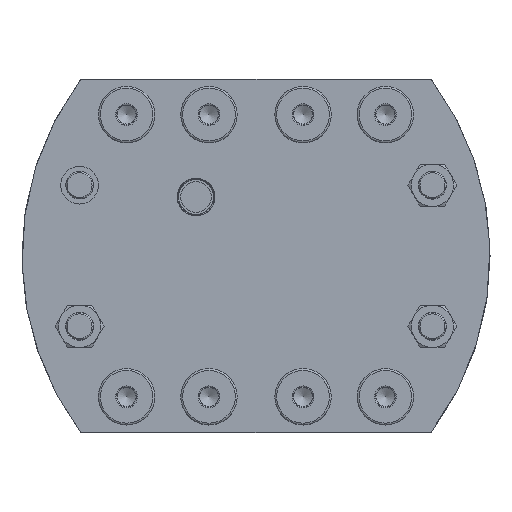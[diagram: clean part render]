
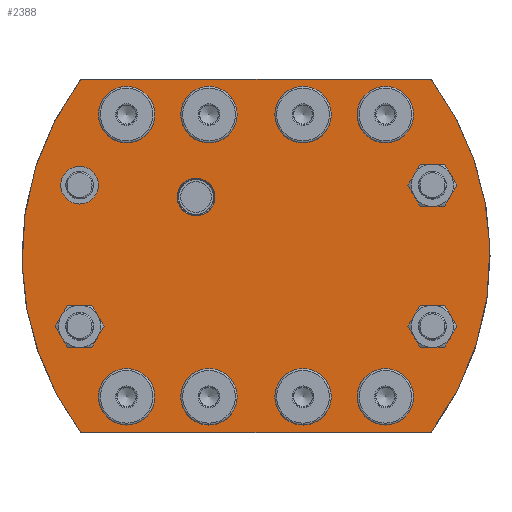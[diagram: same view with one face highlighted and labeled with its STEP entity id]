
A CAD part, top view. The second image highlights one B-rep face of the part: STEP entity #2388.
In plain terms, the highlighted planar face has unit normal (0, 0, 1).
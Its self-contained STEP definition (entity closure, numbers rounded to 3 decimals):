
#1037=LINE('',#16882,#1321);
#1039=LINE('',#16890,#1323);
#1321=VECTOR('',#12905,1.);
#1323=VECTOR('',#12915,1.);
#1586=PLANE('',#10272);
#2388=ADVANCED_FACE('',(#3315,#3316,#3317,#3318,#3319,#3320,#3321,#3322,
#3323,#3324,#3325,#3326,#3327,#3328),#1586,.T.);
#3315=FACE_BOUND('',#4408,.T.);
#3316=FACE_BOUND('',#4409,.T.);
#3317=FACE_BOUND('',#4410,.T.);
#3318=FACE_BOUND('',#4411,.T.);
#3319=FACE_BOUND('',#4412,.T.);
#3320=FACE_BOUND('',#4413,.T.);
#3321=FACE_BOUND('',#4414,.T.);
#3322=FACE_BOUND('',#4415,.T.);
#3323=FACE_BOUND('',#4416,.T.);
#3324=FACE_BOUND('',#4417,.T.);
#3325=FACE_BOUND('',#4418,.T.);
#3326=FACE_BOUND('',#4419,.T.);
#3327=FACE_BOUND('',#4420,.T.);
#3328=FACE_BOUND('',#4421,.T.);
#4408=EDGE_LOOP('',(#6438,#6439));
#4409=EDGE_LOOP('',(#6440));
#4410=EDGE_LOOP('',(#6441));
#4411=EDGE_LOOP('',(#6442));
#4412=EDGE_LOOP('',(#6443));
#4413=EDGE_LOOP('',(#6444));
#4414=EDGE_LOOP('',(#6445));
#4415=EDGE_LOOP('',(#6446));
#4416=EDGE_LOOP('',(#6447));
#4417=EDGE_LOOP('',(#6448));
#4418=EDGE_LOOP('',(#6449));
#4419=EDGE_LOOP('',(#6450));
#4420=EDGE_LOOP('',(#6451));
#4421=EDGE_LOOP('',(#6452,#6453,#6454,#6455,#6456,#6457));
#6438=ORIENTED_EDGE('',*,*,#8385,.T.);
#6439=ORIENTED_EDGE('',*,*,#8386,.F.);
#6440=ORIENTED_EDGE('',*,*,#8384,.T.);
#6441=ORIENTED_EDGE('',*,*,#8383,.T.);
#6442=ORIENTED_EDGE('',*,*,#8382,.T.);
#6443=ORIENTED_EDGE('',*,*,#8381,.T.);
#6444=ORIENTED_EDGE('',*,*,#8380,.T.);
#6445=ORIENTED_EDGE('',*,*,#8379,.T.);
#6446=ORIENTED_EDGE('',*,*,#8378,.T.);
#6447=ORIENTED_EDGE('',*,*,#8377,.T.);
#6448=ORIENTED_EDGE('',*,*,#8376,.F.);
#6449=ORIENTED_EDGE('',*,*,#8375,.F.);
#6450=ORIENTED_EDGE('',*,*,#8374,.F.);
#6451=ORIENTED_EDGE('',*,*,#8373,.F.);
#6452=ORIENTED_EDGE('',*,*,#8365,.F.);
#6453=ORIENTED_EDGE('',*,*,#8368,.T.);
#6454=ORIENTED_EDGE('',*,*,#8371,.F.);
#6455=ORIENTED_EDGE('',*,*,#8370,.F.);
#6456=ORIENTED_EDGE('',*,*,#8372,.F.);
#6457=ORIENTED_EDGE('',*,*,#8366,.F.);
#7324=VERTEX_POINT('',#16873);
#7325=VERTEX_POINT('',#16875);
#7326=VERTEX_POINT('',#16877);
#7327=VERTEX_POINT('',#16881);
#7328=VERTEX_POINT('',#16885);
#7329=VERTEX_POINT('',#16887);
#7330=VERTEX_POINT('',#16893);
#7331=VERTEX_POINT('',#16896);
#7332=VERTEX_POINT('',#16899);
#7333=VERTEX_POINT('',#16902);
#7334=VERTEX_POINT('',#16905);
#7335=VERTEX_POINT('',#16908);
#7336=VERTEX_POINT('',#16911);
#7337=VERTEX_POINT('',#16914);
#7338=VERTEX_POINT('',#16917);
#7339=VERTEX_POINT('',#16920);
#7340=VERTEX_POINT('',#16923);
#7341=VERTEX_POINT('',#16926);
#7342=VERTEX_POINT('',#16929);
#7343=VERTEX_POINT('',#16930);
#8365=EDGE_CURVE('',#7325,#7326,#8993,.T.);
#8366=EDGE_CURVE('',#7326,#7324,#8994,.T.);
#8368=EDGE_CURVE('',#7325,#7327,#1037,.T.);
#8370=EDGE_CURVE('',#7328,#7329,#8995,.T.);
#8371=EDGE_CURVE('',#7329,#7327,#8996,.T.);
#8372=EDGE_CURVE('',#7324,#7328,#1039,.T.);
#8373=EDGE_CURVE('',#7330,#7330,#8997,.T.);
#8374=EDGE_CURVE('',#7331,#7331,#8998,.T.);
#8375=EDGE_CURVE('',#7332,#7332,#8999,.T.);
#8376=EDGE_CURVE('',#7333,#7333,#9000,.T.);
#8377=EDGE_CURVE('',#7334,#7334,#9001,.T.);
#8378=EDGE_CURVE('',#7335,#7335,#9002,.T.);
#8379=EDGE_CURVE('',#7336,#7336,#9003,.T.);
#8380=EDGE_CURVE('',#7337,#7337,#9004,.T.);
#8381=EDGE_CURVE('',#7338,#7338,#9005,.T.);
#8382=EDGE_CURVE('',#7339,#7339,#9006,.T.);
#8383=EDGE_CURVE('',#7340,#7340,#9007,.T.);
#8384=EDGE_CURVE('',#7341,#7341,#9008,.T.);
#8385=EDGE_CURVE('',#7342,#7343,#9009,.T.);
#8386=EDGE_CURVE('',#7342,#7343,#9010,.T.);
#8993=CIRCLE('',#10238,125.);
#8994=CIRCLE('',#10239,125.);
#8995=CIRCLE('',#10242,125.);
#8996=CIRCLE('',#10243,125.);
#8997=CIRCLE('',#10246,8.);
#8998=CIRCLE('',#10248,8.);
#8999=CIRCLE('',#10250,8.);
#9000=CIRCLE('',#10252,8.);
#9001=CIRCLE('',#10254,8.);
#9002=CIRCLE('',#10256,8.);
#9003=CIRCLE('',#10258,8.);
#9004=CIRCLE('',#10260,8.);
#9005=CIRCLE('',#10262,8.);
#9006=CIRCLE('',#10264,8.);
#9007=CIRCLE('',#10266,8.);
#9008=CIRCLE('',#10268,8.);
#9009=CIRCLE('',#10270,8.);
#9010=CIRCLE('',#10271,8.);
#10238=AXIS2_PLACEMENT_3D('',#16876,#12898,#12899);
#10239=AXIS2_PLACEMENT_3D('',#16878,#12900,#12901);
#10242=AXIS2_PLACEMENT_3D('',#16886,#12909,#12910);
#10243=AXIS2_PLACEMENT_3D('',#16888,#12911,#12912);
#10246=AXIS2_PLACEMENT_3D('',#16892,#12918,#12919);
#10248=AXIS2_PLACEMENT_3D('',#16895,#12922,#12923);
#10250=AXIS2_PLACEMENT_3D('',#16898,#12926,#12927);
#10252=AXIS2_PLACEMENT_3D('',#16901,#12930,#12931);
#10254=AXIS2_PLACEMENT_3D('',#16904,#12934,#12935);
#10256=AXIS2_PLACEMENT_3D('',#16907,#12938,#12939);
#10258=AXIS2_PLACEMENT_3D('',#16910,#12942,#12943);
#10260=AXIS2_PLACEMENT_3D('',#16913,#12946,#12947);
#10262=AXIS2_PLACEMENT_3D('',#16916,#12950,#12951);
#10264=AXIS2_PLACEMENT_3D('',#16919,#12954,#12955);
#10266=AXIS2_PLACEMENT_3D('',#16922,#12958,#12959);
#10268=AXIS2_PLACEMENT_3D('',#16925,#12962,#12963);
#10270=AXIS2_PLACEMENT_3D('',#16928,#12966,#12967);
#10271=AXIS2_PLACEMENT_3D('',#16931,#12968,#12969);
#10272=AXIS2_PLACEMENT_3D('',#16932,#12970,#12971);
#12898=DIRECTION('',(0.,0.,-1.));
#12899=DIRECTION('',(1.,0.,0.));
#12900=DIRECTION('',(0.,0.,-1.));
#12901=DIRECTION('',(1.,0.,0.));
#12905=DIRECTION('',(1.,0.,0.));
#12909=DIRECTION('',(0.,0.,-1.));
#12910=DIRECTION('',(1.,0.,0.));
#12911=DIRECTION('',(0.,0.,-1.));
#12912=DIRECTION('',(1.,0.,0.));
#12915=DIRECTION('',(1.,0.,0.));
#12918=DIRECTION('',(0.,0.,1.));
#12919=DIRECTION('',(1.,0.,0.));
#12922=DIRECTION('',(0.,0.,1.));
#12923=DIRECTION('',(1.,0.,0.));
#12926=DIRECTION('',(0.,0.,1.));
#12927=DIRECTION('',(1.,0.,0.));
#12930=DIRECTION('',(0.,0.,1.));
#12931=DIRECTION('',(1.,0.,0.));
#12934=DIRECTION('',(0.,0.,-1.));
#12935=DIRECTION('',(1.,0.,0.));
#12938=DIRECTION('',(0.,0.,-1.));
#12939=DIRECTION('',(1.,0.,0.));
#12942=DIRECTION('',(0.,0.,-1.));
#12943=DIRECTION('',(1.,0.,0.));
#12946=DIRECTION('',(0.,0.,-1.));
#12947=DIRECTION('',(1.,0.,0.));
#12950=DIRECTION('',(0.,0.,-1.));
#12951=DIRECTION('',(1.,0.,0.));
#12954=DIRECTION('',(0.,0.,-1.));
#12955=DIRECTION('',(1.,0.,0.));
#12958=DIRECTION('',(0.,0.,-1.));
#12959=DIRECTION('',(1.,0.,0.));
#12962=DIRECTION('',(0.,0.,-1.));
#12963=DIRECTION('',(1.,0.,0.));
#12966=DIRECTION('',(0.,0.,-1.));
#12967=DIRECTION('',(1.,0.,0.));
#12968=DIRECTION('',(0.,0.,1.));
#12969=DIRECTION('',(-1.,0.,0.));
#12970=DIRECTION('',(0.,0.,1.));
#12971=DIRECTION('',(1.,0.,0.));
#16873=CARTESIAN_POINT('',(-49.,75.,70.775));
#16875=CARTESIAN_POINT('',(-49.,-75.,70.775));
#16876=CARTESIAN_POINT('',(51.,0.,70.775));
#16877=CARTESIAN_POINT('',(-73.946,-3.663,70.775));
#16878=CARTESIAN_POINT('',(51.,0.,70.775));
#16881=CARTESIAN_POINT('',(100.,-75.,70.775));
#16882=CARTESIAN_POINT('',(-34.5,-75.,70.775));
#16885=CARTESIAN_POINT('',(100.,75.,70.775));
#16886=CARTESIAN_POINT('',(0.,0.,70.775));
#16887=CARTESIAN_POINT('',(124.946,3.663,70.775));
#16888=CARTESIAN_POINT('',(0.,0.,70.775));
#16890=CARTESIAN_POINT('',(85.5,75.,70.775));
#16892=CARTESIAN_POINT('',(80.5,60.,70.775));
#16893=CARTESIAN_POINT('',(88.5,60.,70.775));
#16895=CARTESIAN_POINT('',(80.5,-60.,70.775));
#16896=CARTESIAN_POINT('',(88.5,-60.,70.775));
#16898=CARTESIAN_POINT('',(-29.5,-60.,70.775));
#16899=CARTESIAN_POINT('',(-21.5,-60.,70.775));
#16901=CARTESIAN_POINT('',(-29.5,60.,70.775));
#16902=CARTESIAN_POINT('',(-21.5,60.,70.775));
#16904=CARTESIAN_POINT('',(100.5,-30.,70.775));
#16905=CARTESIAN_POINT('',(108.5,-30.,70.775));
#16907=CARTESIAN_POINT('',(100.5,30.,70.775));
#16908=CARTESIAN_POINT('',(108.5,30.,70.775));
#16910=CARTESIAN_POINT('',(-49.5,30.,70.775));
#16911=CARTESIAN_POINT('',(-41.5,30.,70.775));
#16913=CARTESIAN_POINT('',(-49.5,-30.,70.775));
#16914=CARTESIAN_POINT('',(-41.5,-30.,70.775));
#16916=CARTESIAN_POINT('',(45.5,-60.,70.775));
#16917=CARTESIAN_POINT('',(53.5,-60.,70.775));
#16919=CARTESIAN_POINT('',(45.5,60.,70.775));
#16920=CARTESIAN_POINT('',(53.5,60.,70.775));
#16922=CARTESIAN_POINT('',(5.5,-60.,70.775));
#16923=CARTESIAN_POINT('',(13.5,-60.,70.775));
#16925=CARTESIAN_POINT('',(5.5,60.,70.775));
#16926=CARTESIAN_POINT('',(13.5,60.,70.775));
#16928=CARTESIAN_POINT('',(0.,25.,70.775));
#16929=CARTESIAN_POINT('',(5.172,18.897,70.775));
#16930=CARTESIAN_POINT('',(5.172,31.103,70.775));
#16931=CARTESIAN_POINT('',(0.,25.,70.775));
#16932=CARTESIAN_POINT('',(85.5,60.,70.775));
